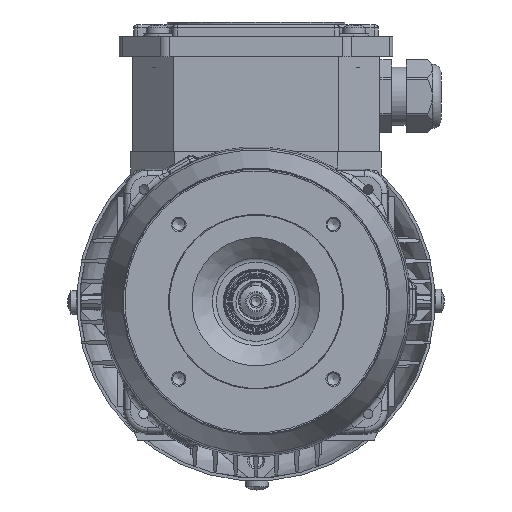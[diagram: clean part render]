
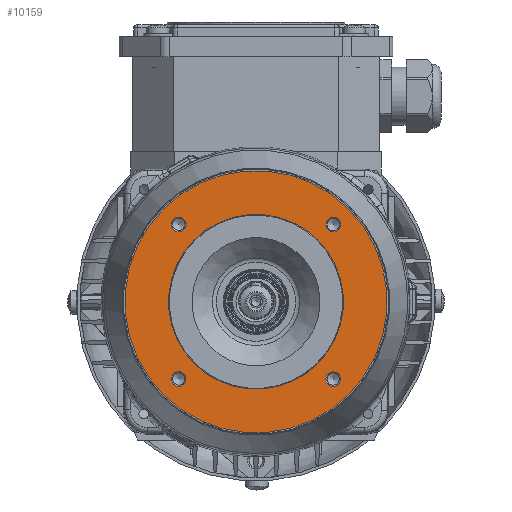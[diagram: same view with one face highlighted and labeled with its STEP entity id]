
A CAD part, front view. The second image highlights one B-rep face of the part: STEP entity #10159.
In plain terms, the highlighted planar face has unit normal (0, -1, 0).
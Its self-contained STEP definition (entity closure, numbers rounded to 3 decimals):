
#5971=FACE_BOUND('',#16815,.T.);
#5972=FACE_BOUND('',#16816,.T.);
#5973=FACE_BOUND('',#16817,.T.);
#5974=FACE_BOUND('',#16818,.T.);
#5975=FACE_BOUND('',#16819,.T.);
#5976=FACE_BOUND('',#16820,.T.);
#10159=ADVANCED_FACE('',(#5971,#5972,#5973,#5974,#5975,#5976),#12109,.T.);
#12109=PLANE('',#55562);
#16815=EDGE_LOOP('',(#27134));
#16816=EDGE_LOOP('',(#27135));
#16817=EDGE_LOOP('',(#27136));
#16818=EDGE_LOOP('',(#27137));
#16819=EDGE_LOOP('',(#27138));
#16820=EDGE_LOOP('',(#27139));
#27134=ORIENTED_EDGE('',*,*,#40754,.T.);
#27135=ORIENTED_EDGE('',*,*,#40755,.T.);
#27136=ORIENTED_EDGE('',*,*,#40756,.T.);
#27137=ORIENTED_EDGE('',*,*,#40757,.T.);
#27138=ORIENTED_EDGE('',*,*,#40758,.T.);
#27139=ORIENTED_EDGE('',*,*,#40759,.T.);
#34802=VERTEX_POINT('',#84408);
#34803=VERTEX_POINT('',#84410);
#34804=VERTEX_POINT('',#84412);
#34805=VERTEX_POINT('',#84414);
#34806=VERTEX_POINT('',#84416);
#34807=VERTEX_POINT('',#84418);
#40754=EDGE_CURVE('',#34802,#34802,#50730,.T.);
#40755=EDGE_CURVE('',#34803,#34803,#50731,.T.);
#40756=EDGE_CURVE('',#34804,#34804,#50732,.T.);
#40757=EDGE_CURVE('',#34805,#34805,#50733,.T.);
#40758=EDGE_CURVE('',#34806,#34806,#50734,.T.);
#40759=EDGE_CURVE('',#34807,#34807,#50735,.T.);
#50730=CIRCLE('',#55556,2.5);
#50731=CIRCLE('',#55557,2.5);
#50732=CIRCLE('',#55558,2.5);
#50733=CIRCLE('',#55559,2.5);
#50734=CIRCLE('',#55560,30.);
#50735=CIRCLE('',#55561,45.);
#55556=AXIS2_PLACEMENT_3D('',#84407,#66103,#66104);
#55557=AXIS2_PLACEMENT_3D('',#84409,#66105,#66106);
#55558=AXIS2_PLACEMENT_3D('',#84411,#66107,#66108);
#55559=AXIS2_PLACEMENT_3D('',#84413,#66109,#66110);
#55560=AXIS2_PLACEMENT_3D('',#84415,#66111,#66112);
#55561=AXIS2_PLACEMENT_3D('',#84417,#66113,#66114);
#55562=AXIS2_PLACEMENT_3D('',#84419,#66115,#66116);
#66103=DIRECTION('',(0.,1.,0.));
#66104=DIRECTION('',(-0.707,0.,0.708));
#66105=DIRECTION('',(0.,1.,0.));
#66106=DIRECTION('',(-0.707,0.,0.708));
#66107=DIRECTION('',(0.,1.,0.));
#66108=DIRECTION('',(-0.707,0.,0.708));
#66109=DIRECTION('',(0.,1.,0.));
#66110=DIRECTION('',(-0.707,0.,0.708));
#66111=DIRECTION('',(0.,1.,0.));
#66112=DIRECTION('',(0.707,0.,-0.708));
#66113=DIRECTION('',(0.,-1.,0.));
#66114=DIRECTION('',(0.707,0.,-0.708));
#66115=DIRECTION('',(0.,-1.,0.));
#66116=DIRECTION('',(-0.707,0.,0.708));
#84407=CARTESIAN_POINT('',(26.5,-42.5,-26.533));
#84408=CARTESIAN_POINT('',(24.734,-42.5,-24.764));
#84409=CARTESIAN_POINT('',(-26.5,-42.5,26.533));
#84410=CARTESIAN_POINT('',(-28.267,-42.5,28.302));
#84411=CARTESIAN_POINT('',(-26.533,-42.5,-26.5));
#84412=CARTESIAN_POINT('',(-28.299,-42.5,-24.731));
#84413=CARTESIAN_POINT('',(26.533,-42.5,26.5));
#84414=CARTESIAN_POINT('',(24.766,-42.5,28.269));
#84415=CARTESIAN_POINT('',(0.,-42.5,0.));
#84416=CARTESIAN_POINT('',(21.2,-42.5,-21.226));
#84417=CARTESIAN_POINT('',(0.,-42.5,0.));
#84418=CARTESIAN_POINT('',(31.8,-42.5,-31.839));
#84419=CARTESIAN_POINT('',(0.,-42.5,0.));
